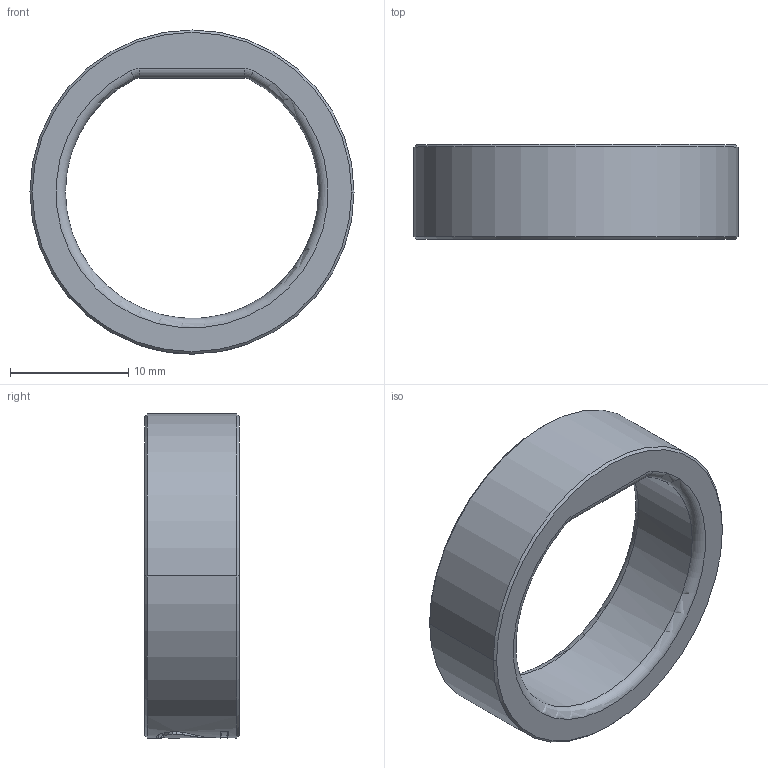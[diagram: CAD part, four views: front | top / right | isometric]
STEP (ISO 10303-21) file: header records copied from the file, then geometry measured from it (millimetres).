
FILE_DESCRIPTION((''),'2;1');
FILE_NAME('12','2026-09-02T10:41:58',('krisl'),(''),'CREO PARAMETRIC BY PTC INC, 2024063','CREO PARAMETRIC BY PTC INC, 2024063','');
FILE_SCHEMA(('CONFIG_CONTROL_DESIGN'));
Length unit declared in the file: millimetre
Products named in the file (1): 12
Bounding box: 27.4 x 8 x 27.4 mm (x, y, z)
Volume: 1868.6 mm3; surface area: 1638.9 mm2
Topology: 1 solids, 1 shells, 57 faces, 159 edges, 106 vertices
Faces by surface type: bspline 35, cylinder 9, torus 6, cone 4, plane 3
Entity records: 2346 total; most frequent: CARTESIAN_POINT 1038, ORIENTED_EDGE 318, DIRECTION 180, EDGE_CURVE 159, VERTEX_POINT 106, B_SPLINE_CURVE_WITH_KNOTS 77, AXIS2_PLACEMENT_3D 76, EDGE_LOOP 61
